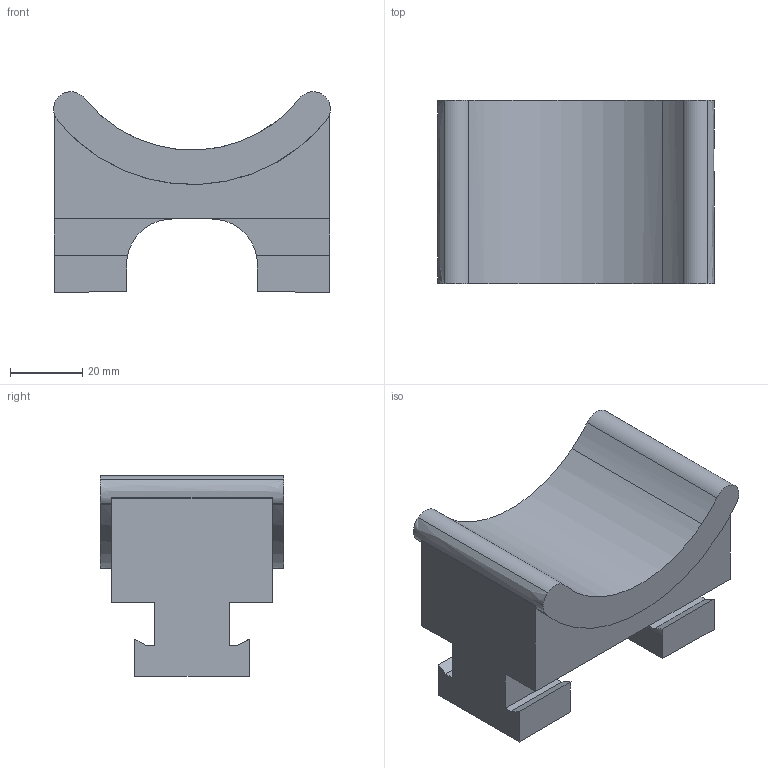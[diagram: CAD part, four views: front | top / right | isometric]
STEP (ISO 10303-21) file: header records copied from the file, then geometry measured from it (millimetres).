
FILE_DESCRIPTION(('TurboCAD Mac Pro'),'Build 980');
FILE_NAME('P1753PO.stp',' ',(''),(''),'ACIS Interop','IMSI','TurboCAD Mac Pro BY IMSI, INCORPORATED');
FILE_SCHEMA(('automotive_design'));
Length unit declared in the file: inch
Products named in the file (1): 1
Bounding box: 76.55 x 50.8 x 55.48 mm (x, y, z)
Volume: 114648.3 mm3; surface area: 20114.7 mm2
Topology: 1 solids, 1 shells, 48 faces, 136 edges, 90 vertices
Faces by surface type: plane 31, bspline 13, cylinder 4
Entity records: 2098 total; most frequent: CARTESIAN_POINT 500, ORIENTED_EDGE 276, DIRECTION 209, EDGE_CURVE 136, LINE 91, VECTOR 91, VERTEX_POINT 90, AXIS2_PLACEMENT_3D 59
